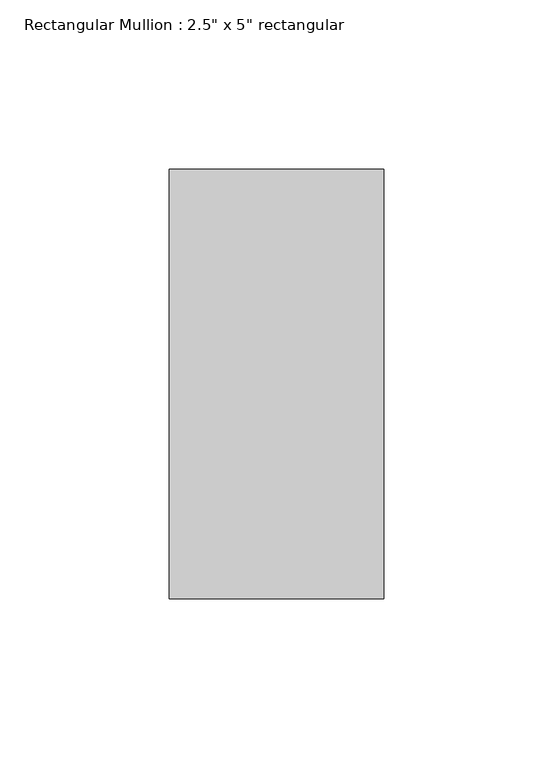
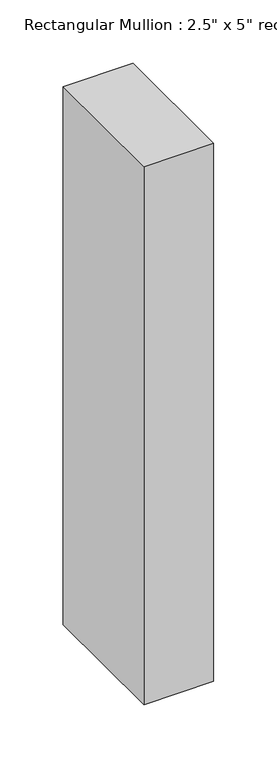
"""IFC4 building model written with IfcOpenShell, lengths in millimetres: member geometry."""

from ifc_helpers import new_model, si_unit, frame, origin, place, context, project, spatial, polyline, outline, extrude, source, transform, mapped, element, save


def member_26eb6216(model_context):
    return source(origin(), model_context, "Body", "SweptSolid", [
        extrude(outline(polyline([(31.75, 63.5), (31.75, -63.5), (-31.75, -63.5), (-31.75, 63.5), (31.75, 63.5)])), frame((0.0, 0.0, -517.5860089), z_axis=(0.0, 0.0, 1.0), x_axis=(1.0, 0.0, 0.0)), (0.0, 0.0, 1.0), 517.5860089),
    ])


if __name__ == "__main__":
    model = new_model("IFC4")
    model_context = context("Model", 3, world=origin())
    ifc_project = project(units=[si_unit("LENGTHUNIT", "METRE", prefix="MILLI")], contexts=[model_context])
    site = spatial("IfcSite", under=ifc_project)
    building = spatial("IfcBuilding", under=site)
    placement = place(None, origin())
    member_shape = member_26eb6216(model_context)
    element("IfcMember", 1, ObjectType="Rectangular Mullion : 2.5\" x 5\" rectangular", at=placement, inside=building, context=model_context, shape_type="MappedRepresentation", body=[
        mapped(member_shape, transform((0.0, 0.0, 0.0), x_axis=(1.0, 0.0, 0.0), y_axis=(0.0, 1.0, 0.0), z_axis=(0.0, 0.0, 1.0))),
    ])
    save(model, "model.ifc")
